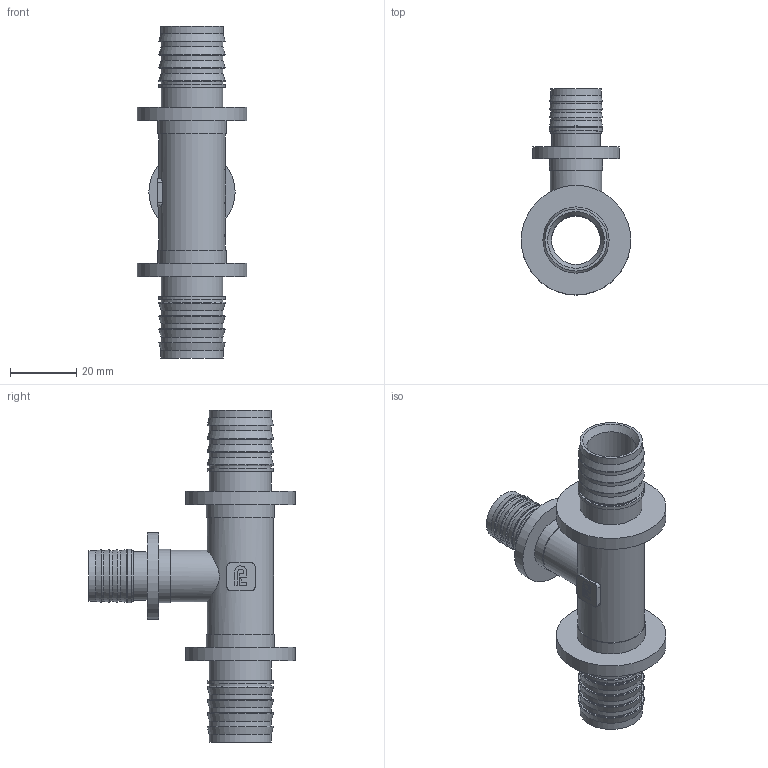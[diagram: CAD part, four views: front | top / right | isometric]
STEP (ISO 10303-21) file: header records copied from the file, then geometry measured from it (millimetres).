
FILE_DESCRIPTION(/* description */ (''),/* implementation_level */ '2;1');
FILE_NAME(/* name */ 'C:\Users\Doom\Desktop\Фадотех\Натяжка\FD-SFT13 NEW 25x20x25 07.05.2020\FD-SFT13 NEW 25x20x25 07.05.2020.stp',/* time_stamp */ '2022-07-24T16:15:46+03:00',/* author */ ('Doom'),/* organization */ (''),/* preprocessor_version */ 'ST-DEVELOPER v18',/* originating_system */ 'Autodesk Inventor 2020',/* authorisation */ '');
FILE_SCHEMA (('AUTOMOTIVE_DESIGN { 1 0 10303 214 3 1 1 }'));
Length unit declared in the file: millimetre
Products named in the file (1): FD-SFT13 NEW   25x20x25 07.05.2020
Bounding box: 33 x 62.1 x 100 mm (x, y, z)
Volume: 21737.7 mm3; surface area: 17878.3 mm2
Topology: 1 solids, 1 shells, 251 faces, 695 edges, 487 vertices
Faces by surface type: bspline 103, plane 84, cylinder 41, cone 15, torus 8
Full cylindrical faces by diameter (mm): 10.8 x1, 14.5 x1, 14.7 x1, 15.1 x6, 15.5 x1, 16 x2, 18.626 x4, 18.667 x6, 18.7 x2, 19.9 x2, 20 x1, 20.5 x2, 26 x1, 33 x2
Entity records: 10545 total; most frequent: CARTESIAN_POINT 4493, ORIENTED_EDGE 1390, DIRECTION 1004, EDGE_CURVE 695, VERTEX_POINT 487, AXIS2_PLACEMENT_3D 370, EDGE_LOOP 296, LINE 264
